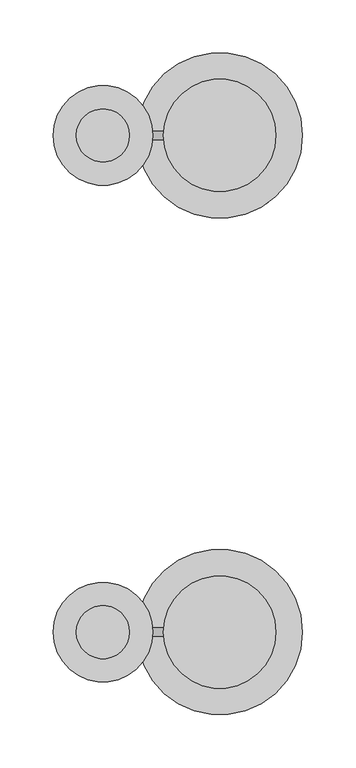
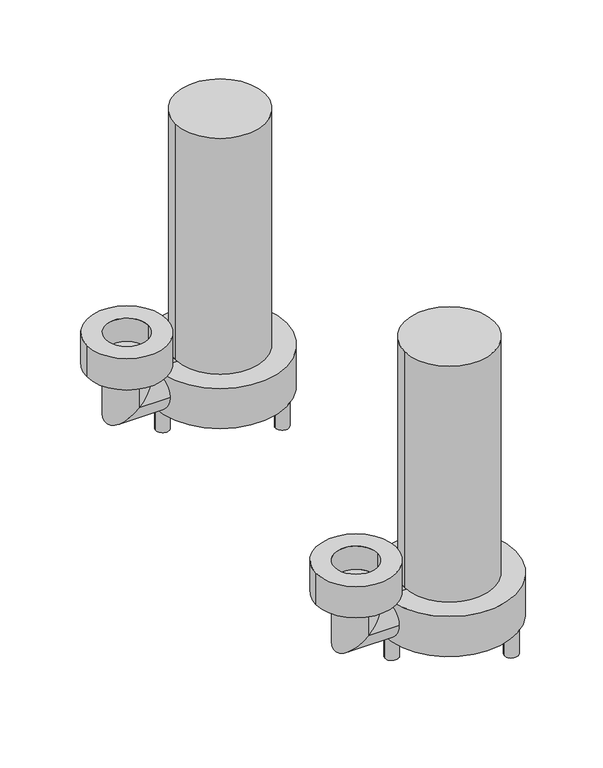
"""IFC4 building model written with IfcOpenShell, lengths in millimetres: sanitary terminal geometry, 02070_PD_水中ポンプ : 汚水_50φ."""

from ifc_helpers import new_model, si_unit, point, frame, frame_2d, origin, place, context, project, spatial, polyline, circle_curve, ellipse_curve, trimmed, segment, composite_curve, outline, extrude, source, transform, mapped, element, save
from ifc_brep_helpers import plane_surface, cylinder_surface, revolved_surface, advanced_brep


def sanitary_terminal_5eec8a21(model_context):
    return source(origin(), model_context, "Body", "SolidModel", [
        advanced_brep(
        [(-110.0, -209.0, -505.0), (-110.0, -259.0, -505.0), (-110.0, -209.0, -545.0), (-110.0, -259.0, -545.0), (0.0, -209.0, -545.0), (0.0, -259.0, -545.0)],
        [
            (0, 1, circle_curve(frame((-110.0, -234.0, -505.0), z_axis=(0.0, 0.0, 1.0), x_axis=(0.0, -1.0, 0.0)), 25.0)),
            (1, 0, circle_curve(frame((-110.0, -234.0, -505.0), z_axis=(0.0, 0.0, 1.0), x_axis=(0.0, -1.0, 0.0)), 25.0)),
            (0, 2),
            (2, 3, ellipse_curve(frame((-110.0, -234.0, -545.0), z_axis=(-0.7071067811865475, 0.0, 0.7071067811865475), x_axis=(0.7071067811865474, 0.0, 0.7071067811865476)), 35.3553391, 25.0)),
            (3, 1),
            (3, 2, ellipse_curve(frame((-110.0, -234.0, -545.0), z_axis=(-0.7071067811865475, 0.0, 0.7071067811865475), x_axis=(0.7071067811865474, 0.0, 0.7071067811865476)), 35.3553391, 25.0)),
            (4, 5, circle_curve(frame((0.0, -234.0, -545.0), z_axis=(1.0, 0.0, 0.0), x_axis=(0.0, -1.0, 0.0)), 25.0)),
            (5, 4, circle_curve(frame((0.0, -234.0, -545.0), z_axis=(1.0, 0.0, 0.0), x_axis=(0.0, -1.0, 0.0)), 25.0)),
            (2, 4),
            (5, 3),
        ],
        [
            plane_surface(frame((-110.0, -234.0, -505.0), z_axis=(0.0, 0.0, 1.0), x_axis=(0.0, -1.0, 0.0))),
            cylinder_surface(frame((-110.0, -234.0, -505.0), z_axis=(0.0, 0.0, 1.0), x_axis=(0.0, -1.0, 0.0)), 25.0),
            plane_surface(frame((0.0, -234.0, -545.0), z_axis=(1.0, 0.0, 0.0), x_axis=(0.0, -1.0, 0.0))),
            cylinder_surface(frame((-110.0, -234.0, -545.0), z_axis=(-1.0, 0.0, 0.0), x_axis=(0.0, -1.0, 0.0)), 25.0),
        ],
        [
            (0, [[1, 2]]),
            (1, [[-1, 3, 4, 5]]),
            (1, [[-2, -5, 6, -3]]),
            (2, [[7, 8]]),
            (3, [[-4, 9, -8, 10]]),
            (3, [[-6, -10, -7, -9]]),
        ],
    ),
        extrude(outline(composite_curve([segment(trimmed(circle_curve(frame_2d((-68.0, -234.0)), 8.0), [point((-76.0, -234.0))], [point((-60.0, -234.0))], False, "CARTESIAN"), True, "CONTINUOUS"), segment(trimmed(circle_curve(frame_2d((-68.0, -234.0)), 8.0), [point((-60.0, -234.0))], [point((-76.0, -234.0))], False, "CARTESIAN"), True, "CONTINUOUS")], self_intersect=False)), frame((0.0, 0.0, -600.0), z_axis=(0.0, 0.0, 1.0), x_axis=(1.0, 0.0, 0.0)), (0.0, 0.0, 1.0), 30.0),
        extrude(outline(composite_curve([segment(trimmed(circle_curve(frame_2d((40.0, -291.2820323)), 8.0), [point((32.0, -291.2820323))], [point((48.0, -291.2820323))], False, "CARTESIAN"), True, "CONTINUOUS"), segment(trimmed(circle_curve(frame_2d((40.0, -291.2820323)), 8.0), [point((48.0, -291.2820323))], [point((32.0, -291.2820323))], False, "CARTESIAN"), True, "CONTINUOUS")], self_intersect=False)), frame((0.0, 0.0, -600.0), z_axis=(0.0, 0.0, 1.0), x_axis=(1.0, 0.0, 0.0)), (0.0, 0.0, 1.0), 30.0),
        extrude(outline(composite_curve([segment(trimmed(circle_curve(frame_2d((40.0, -176.7179677)), 8.0), [point((32.0, -176.7179677))], [point((48.0, -176.7179677))], False, "CARTESIAN"), True, "CONTINUOUS"), segment(trimmed(circle_curve(frame_2d((40.0, -176.7179677)), 8.0), [point((48.0, -176.7179677))], [point((32.0, -176.7179677))], False, "CARTESIAN"), True, "CONTINUOUS")], self_intersect=False)), frame((0.0, 0.0, -600.0), z_axis=(0.0, 0.0, 1.0), x_axis=(1.0, 0.0, 0.0)), (0.0, 0.0, 1.0), 30.0),
        advanced_brep(
        [(-85.0, -234.0, -495.0), (-135.0, -234.0, -495.0), (-85.0, -234.0, -466.0), (-135.0, -234.0, -466.0), (-157.0, -234.0, -466.0), (-63.0, -234.0, -466.0), (-157.0, -234.0, -505.0), (-63.0, -234.0, -505.0)],
        [
            (0, 1, circle_curve(frame((-110.0, -234.0, -495.0), z_axis=(0.0, 0.0, 1.0), x_axis=(-1.0, 0.0, 0.0)), 25.0)),
            (1, 0, circle_curve(frame((-110.0, -234.0, -495.0), z_axis=(0.0, 0.0, 1.0), x_axis=(-1.0, 0.0, 0.0)), 25.0)),
            (0, 2),
            (2, 3, circle_curve(frame((-110.0, -234.0, -466.0), z_axis=(0.0, 0.0, 1.0), x_axis=(-1.0, 0.0, 0.0)), 25.0)),
            (3, 1),
            (3, 2, circle_curve(frame((-110.0, -234.0, -466.0), z_axis=(0.0, 0.0, 1.0), x_axis=(-1.0, 0.0, 0.0)), 25.0)),
            (4, 5, circle_curve(frame((-110.0, -234.0, -466.0), z_axis=(0.0, 0.0, 1.0), x_axis=(1.0, 0.0, 0.0)), 47.0)),
            (5, 4, circle_curve(frame((-110.0, -234.0, -466.0), z_axis=(0.0, 0.0, 1.0), x_axis=(1.0, 0.0, 0.0)), 47.0)),
            (6, 7, circle_curve(frame((-110.0, -234.0, -505.0), z_axis=(0.0, 0.0, -1.0), x_axis=(1.0, 0.0, 0.0)), 47.0)),
            (7, 6, circle_curve(frame((-110.0, -234.0, -505.0), z_axis=(0.0, 0.0, -1.0), x_axis=(1.0, 0.0, 0.0)), 47.0)),
            (4, 6),
            (7, 5),
        ],
        [
            plane_surface(frame((-135.0, -234.0, -495.0), z_axis=(0.0, 0.0, 1.0), x_axis=(0.0, 1.0, 0.0))),
            revolved_surface(polyline([(-135.0, -234.0, -466.0), (-135.0, -234.0, -495.0)]), (-110.0, -234.0, -495.0), (0.0, 0.0, 1.0)),
            plane_surface(frame((-63.0, -234.0, -466.0), z_axis=(0.0, 0.0, 1.0), x_axis=(0.0, 1.0, 0.0))),
            plane_surface(frame((-63.0, -234.0, -505.0), z_axis=(0.0, 0.0, -1.0), x_axis=(0.0, -1.0, 0.0))),
            cylinder_surface(frame((-110.0, -234.0, -505.0), z_axis=(0.0, 0.0, 1.0), x_axis=(1.0, 0.0, 0.0)), 47.0),
        ],
        [
            (0, [[1, 2]]),
            (1, [[-1, 3, 4, 5]]),
            (1, [[-2, -5, 6, -3]]),
            (2, [[7, 8], [-4, -6]]),
            (3, [[9, 10]]),
            (4, [[-7, 11, -10, 12]]),
            (4, [[-8, -12, -9, -11]]),
        ],
    ),
        extrude(outline(composite_curve([segment(trimmed(circle_curve(frame_2d((0.0, -234.0)), 78.0), [point((-78.0, -234.0))], [point((78.0, -234.0))], False, "CARTESIAN"), True, "CONTINUOUS"), segment(trimmed(circle_curve(frame_2d((0.0, -234.0)), 78.0), [point((78.0, -234.0))], [point((-78.0, -234.0))], False, "CARTESIAN"), True, "CONTINUOUS")], self_intersect=False)), frame((0.0, 0.0, -570.0), z_axis=(0.0, 0.0, 1.0), x_axis=(1.0, 0.0, 0.0)), (0.0, 0.0, 1.0), 50.0),
        extrude(outline(composite_curve([segment(trimmed(circle_curve(frame_2d((0.0, -234.0)), 53.0), [point((53.0, -234.0))], [point((-53.0, -234.0))], False, "CARTESIAN"), True, "CONTINUOUS"), segment(trimmed(circle_curve(frame_2d((0.0, -234.0)), 53.0), [point((-53.0, -234.0))], [point((53.0, -234.0))], False, "CARTESIAN"), True, "CONTINUOUS")], self_intersect=False)), frame((0.0, 0.0, -520.0), z_axis=(0.0, 0.0, 1.0), x_axis=(1.0, 0.0, 0.0)), (0.0, 0.0, 1.0), 294.0),
        advanced_brep(
        [(-110.0, 259.0, -505.0), (-110.0, 209.0, -505.0), (-110.0, 259.0, -545.0), (-110.0, 209.0, -545.0), (0.0, 259.0, -545.0), (0.0, 209.0, -545.0)],
        [
            (0, 1, circle_curve(frame((-110.0, 234.0, -505.0), z_axis=(0.0, 0.0, 1.0), x_axis=(0.0, -1.0, 0.0)), 25.0)),
            (1, 0, circle_curve(frame((-110.0, 234.0, -505.0), z_axis=(0.0, 0.0, 1.0), x_axis=(0.0, -1.0, 0.0)), 25.0)),
            (0, 2),
            (2, 3, ellipse_curve(frame((-110.0, 234.0, -545.0), z_axis=(-0.7071067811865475, 0.0, 0.7071067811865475), x_axis=(0.7071067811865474, 0.0, 0.7071067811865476)), 35.3553391, 25.0)),
            (3, 1),
            (3, 2, ellipse_curve(frame((-110.0, 234.0, -545.0), z_axis=(-0.7071067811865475, 0.0, 0.7071067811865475), x_axis=(0.7071067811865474, 0.0, 0.7071067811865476)), 35.3553391, 25.0)),
            (4, 5, circle_curve(frame((0.0, 234.0, -545.0), z_axis=(1.0, 0.0, 0.0), x_axis=(0.0, -1.0, 0.0)), 25.0)),
            (5, 4, circle_curve(frame((0.0, 234.0, -545.0), z_axis=(1.0, 0.0, 0.0), x_axis=(0.0, -1.0, 0.0)), 25.0)),
            (2, 4),
            (5, 3),
        ],
        [
            plane_surface(frame((-110.0, 234.0, -505.0), z_axis=(0.0, 0.0, 1.0), x_axis=(0.0, -1.0, 0.0))),
            cylinder_surface(frame((-110.0, 234.0, -505.0), z_axis=(0.0, 0.0, 1.0), x_axis=(0.0, -1.0, 0.0)), 25.0),
            plane_surface(frame((0.0, 234.0, -545.0), z_axis=(1.0, 0.0, 0.0), x_axis=(0.0, -1.0, 0.0))),
            cylinder_surface(frame((-110.0, 234.0, -545.0), z_axis=(-1.0, 0.0, 0.0), x_axis=(0.0, -1.0, 0.0)), 25.0),
        ],
        [
            (0, [[1, 2]]),
            (1, [[-1, 3, 4, 5]]),
            (1, [[-2, -5, 6, -3]]),
            (2, [[7, 8]]),
            (3, [[-4, 9, -8, 10]]),
            (3, [[-6, -10, -7, -9]]),
        ],
    ),
        extrude(outline(composite_curve([segment(trimmed(circle_curve(frame_2d((-68.0, 234.0)), 8.0), [point((-76.0, 234.0))], [point((-60.0, 234.0))], False, "CARTESIAN"), True, "CONTINUOUS"), segment(trimmed(circle_curve(frame_2d((-68.0, 234.0)), 8.0), [point((-60.0, 234.0))], [point((-76.0, 234.0))], False, "CARTESIAN"), True, "CONTINUOUS")], self_intersect=False)), frame((0.0, 0.0, -600.0), z_axis=(0.0, 0.0, 1.0), x_axis=(1.0, 0.0, 0.0)), (0.0, 0.0, 1.0), 30.0),
        extrude(outline(composite_curve([segment(trimmed(circle_curve(frame_2d((40.0, 176.7179677)), 8.0), [point((32.0, 176.7179677))], [point((48.0, 176.7179677))], False, "CARTESIAN"), True, "CONTINUOUS"), segment(trimmed(circle_curve(frame_2d((40.0, 176.7179677)), 8.0), [point((48.0, 176.7179677))], [point((32.0, 176.7179677))], False, "CARTESIAN"), True, "CONTINUOUS")], self_intersect=False)), frame((0.0, 0.0, -600.0), z_axis=(0.0, 0.0, 1.0), x_axis=(1.0, 0.0, 0.0)), (0.0, 0.0, 1.0), 30.0),
        extrude(outline(composite_curve([segment(trimmed(circle_curve(frame_2d((40.0, 291.2820323)), 8.0), [point((32.0, 291.2820323))], [point((48.0, 291.2820323))], False, "CARTESIAN"), True, "CONTINUOUS"), segment(trimmed(circle_curve(frame_2d((40.0, 291.2820323)), 8.0), [point((48.0, 291.2820323))], [point((32.0, 291.2820323))], False, "CARTESIAN"), True, "CONTINUOUS")], self_intersect=False)), frame((0.0, 0.0, -600.0), z_axis=(0.0, 0.0, 1.0), x_axis=(1.0, 0.0, 0.0)), (0.0, 0.0, 1.0), 30.0),
        advanced_brep(
        [(-85.0, 234.0, -495.0), (-135.0, 234.0, -495.0), (-85.0, 234.0, -466.0), (-135.0, 234.0, -466.0), (-157.0, 234.0, -466.0), (-63.0, 234.0, -466.0), (-157.0, 234.0, -505.0), (-63.0, 234.0, -505.0)],
        [
            (0, 1, circle_curve(frame((-110.0, 234.0, -495.0), z_axis=(0.0, 0.0, 1.0), x_axis=(-1.0, 0.0, 0.0)), 25.0)),
            (1, 0, circle_curve(frame((-110.0, 234.0, -495.0), z_axis=(0.0, 0.0, 1.0), x_axis=(-1.0, 0.0, 0.0)), 25.0)),
            (0, 2),
            (2, 3, circle_curve(frame((-110.0, 234.0, -466.0), z_axis=(0.0, 0.0, 1.0), x_axis=(-1.0, 0.0, 0.0)), 25.0)),
            (3, 1),
            (3, 2, circle_curve(frame((-110.0, 234.0, -466.0), z_axis=(0.0, 0.0, 1.0), x_axis=(-1.0, 0.0, 0.0)), 25.0)),
            (4, 5, circle_curve(frame((-110.0, 234.0, -466.0), z_axis=(0.0, 0.0, 1.0), x_axis=(1.0, 0.0, 0.0)), 47.0)),
            (5, 4, circle_curve(frame((-110.0, 234.0, -466.0), z_axis=(0.0, 0.0, 1.0), x_axis=(1.0, 0.0, 0.0)), 47.0)),
            (6, 7, circle_curve(frame((-110.0, 234.0, -505.0), z_axis=(0.0, 0.0, -1.0), x_axis=(1.0, 0.0, 0.0)), 47.0)),
            (7, 6, circle_curve(frame((-110.0, 234.0, -505.0), z_axis=(0.0, 0.0, -1.0), x_axis=(1.0, 0.0, 0.0)), 47.0)),
            (4, 6),
            (7, 5),
        ],
        [
            plane_surface(frame((-135.0, 234.0, -495.0), z_axis=(0.0, 0.0, 1.0), x_axis=(0.0, 1.0, 0.0))),
            revolved_surface(polyline([(-135.0, 234.0, -466.0), (-135.0, 234.0, -495.0)]), (-110.0, 234.0, -495.0), (0.0, 0.0, 1.0)),
            plane_surface(frame((-63.0, 234.0, -466.0), z_axis=(0.0, 0.0, 1.0), x_axis=(0.0, 1.0, 0.0))),
            plane_surface(frame((-63.0, 234.0, -505.0), z_axis=(0.0, 0.0, -1.0), x_axis=(0.0, -1.0, 0.0))),
            cylinder_surface(frame((-110.0, 234.0, -505.0), z_axis=(0.0, 0.0, 1.0), x_axis=(1.0, 0.0, 0.0)), 47.0),
        ],
        [
            (0, [[1, 2]]),
            (1, [[-1, 3, 4, 5]]),
            (1, [[-2, -5, 6, -3]]),
            (2, [[7, 8], [-4, -6]]),
            (3, [[9, 10]]),
            (4, [[-7, 11, -10, 12]]),
            (4, [[-8, -12, -9, -11]]),
        ],
    ),
        extrude(outline(composite_curve([segment(trimmed(circle_curve(frame_2d((0.0, 234.0)), 78.0), [point((-78.0, 234.0))], [point((78.0, 234.0))], False, "CARTESIAN"), True, "CONTINUOUS"), segment(trimmed(circle_curve(frame_2d((0.0, 234.0)), 78.0), [point((78.0, 234.0))], [point((-78.0, 234.0))], False, "CARTESIAN"), True, "CONTINUOUS")], self_intersect=False)), frame((0.0, 0.0, -570.0), z_axis=(0.0, 0.0, 1.0), x_axis=(1.0, 0.0, 0.0)), (0.0, 0.0, 1.0), 50.0),
        extrude(outline(composite_curve([segment(trimmed(circle_curve(frame_2d((0.0, 234.0)), 53.0), [point((53.0, 234.0))], [point((-53.0, 234.0))], False, "CARTESIAN"), True, "CONTINUOUS"), segment(trimmed(circle_curve(frame_2d((0.0, 234.0)), 53.0), [point((-53.0, 234.0))], [point((53.0, 234.0))], False, "CARTESIAN"), True, "CONTINUOUS")], self_intersect=False)), frame((0.0, 0.0, -520.0), z_axis=(0.0, 0.0, 1.0), x_axis=(1.0, 0.0, 0.0)), (0.0, 0.0, 1.0), 294.0),
    ])


if __name__ == "__main__":
    model = new_model("IFC4")
    model_context = context("Model", 3, world=origin())
    ifc_project = project(units=[si_unit("LENGTHUNIT", "METRE", prefix="MILLI")], contexts=[model_context])
    site = spatial("IfcSite", under=ifc_project)
    building = spatial("IfcBuilding", under=site)
    placement = place(None, origin())
    sanitary_terminal_shape = sanitary_terminal_5eec8a21(model_context)
    element("IfcSanitaryTerminal", 1, ObjectType="02070_PD_水中ポンプ : 汚水_50φ", at=placement, inside=building, context=model_context, shape_type="MappedRepresentation", body=[
        mapped(sanitary_terminal_shape, transform((0.0, 0.0, 0.0), x_axis=(1.0, 0.0, 0.0), y_axis=(0.0, 1.0, 0.0), z_axis=(0.0, 0.0, 1.0))),
    ])
    save(model, "model.ifc")
